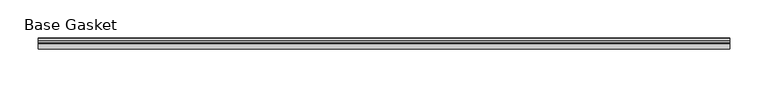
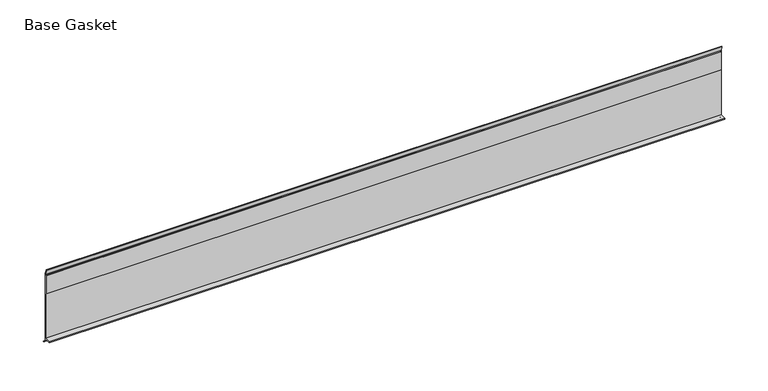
"""IFC4 building model written with IfcOpenShell, lengths in millimetres: furniture geometry, Gasket-Teknion-FHGB-AI_Healthcare-R2021 : Base Gasket."""

from ifc_helpers import new_model, si_unit, frame, origin, place, context, project, spatial, polyline, outline, extrude, source, transform, mapped, element, save


def base_gasket_98d60462(model_context):
    return source(origin(), model_context, "Body", "SweptSolid", [
        extrude(outline(polyline([(3.7283812, 98.4568417), (3.7283812, 4.3498477), (7.4222115, 0.6560174), (7.8482342, 0.0), (6.8281054, 0.3520979), (2.2043812, 4.3498477), (2.1334222, 6.3818476), (-6.2405171, 6.3818476), (-6.2405171, 7.9398773), (2.2043812, 7.9398773), (2.2043812, 71.4693447), (1.4106313, 71.4693447), (1.4106313, 96.8693477), (2.2043812, 96.8693477), (2.2043812, 98.4568417), (0.6755308, 104.4162708), (0.6755308, 105.2002997), (1.1891543, 104.587663), (3.7283812, 98.4568417)])), frame((-1527.8982117, 0.0, 0.0), z_axis=(1.0, 0.0, 0.0), x_axis=(0.0, 1.0, 0.0)), (0.0, 0.0, 1.0), 901.7),
    ])


if __name__ == "__main__":
    model = new_model("IFC4")
    model_context = context("Model", 3, world=origin())
    ifc_project = project(units=[si_unit("LENGTHUNIT", "METRE", prefix="MILLI")], contexts=[model_context])
    site = spatial("IfcSite", under=ifc_project)
    building = spatial("IfcBuilding", under=site)
    placement = place(None, origin())
    base_gasket_shape = base_gasket_98d60462(model_context)
    element("IfcFurniture", 1, ObjectType="Gasket-Teknion-FHGB-AI_Healthcare-R2021 : Base Gasket", at=placement, inside=building, context=model_context, shape_type="MappedRepresentation", body=[
        mapped(base_gasket_shape, transform((0.0, 0.0, 0.0), x_axis=(1.0, 0.0, 0.0), y_axis=(0.0, 1.0, 0.0), z_axis=(0.0, 0.0, 1.0))),
    ])
    save(model, "model.ifc")
